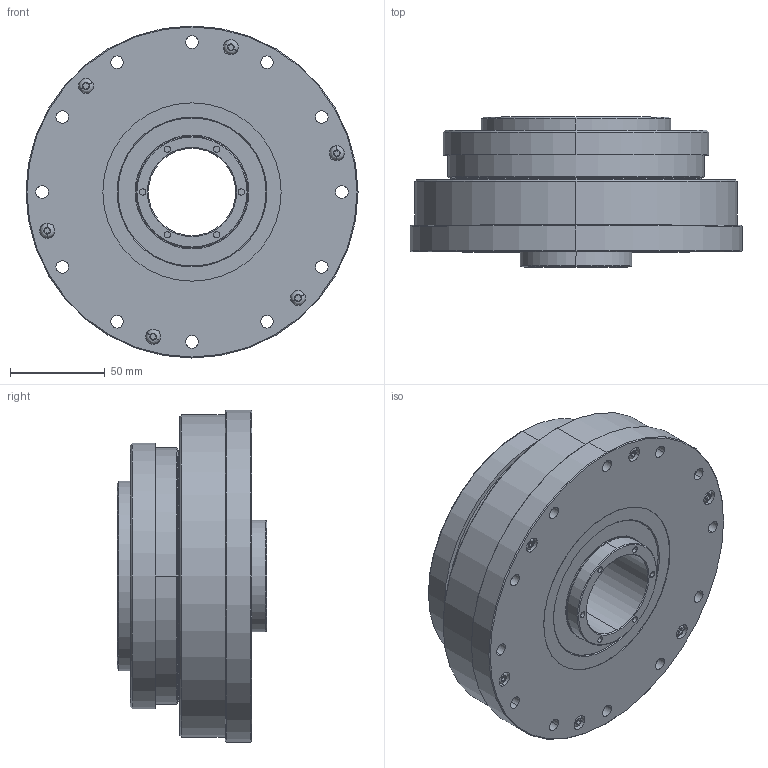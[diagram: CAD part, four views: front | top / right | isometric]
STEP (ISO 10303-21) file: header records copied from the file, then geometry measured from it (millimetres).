
FILE_DESCRIPTION((''),'2;1');
FILE_NAME('LHT-40-U-III','2019-04-11T',('Administrator'),(''),'PRO/ENGINEER BY PARAMETRIC TECHNOLOGY CORPORATION, 2014200','PRO/ENGINEER BY PARAMETRIC TECHNOLOGY CORPORATION, 2014200','');
FILE_SCHEMA(('AUTOMOTIVE_DESIGN { 1 0 10303 214 1 1 1 1 }'));
Length unit declared in the file: millimetre
Products named in the file (1): LHT-40-U-III
Bounding box: 175 x 79 x 175 mm (x, y, z)
Volume: 996536.2 mm3; surface area: 264127.7 mm2
Topology: 2 solids, 40 shells, 1000 faces, 2902 edges, 1772 vertices
Faces by surface type: cylinder 414, plane 264, cone 136, sphere 128, torus 36, bspline 12, revolution 10
Entity records: 40470 total; most frequent: CARTESIAN_POINT 8478, DIRECTION 5715, ORIENTED_EDGE 5124, EDGE_CURVE 2562, AXIS2_PLACEMENT_3D 2411, VERTEX_POINT 1772, CIRCLE 1433, EDGE_LOOP 1288
